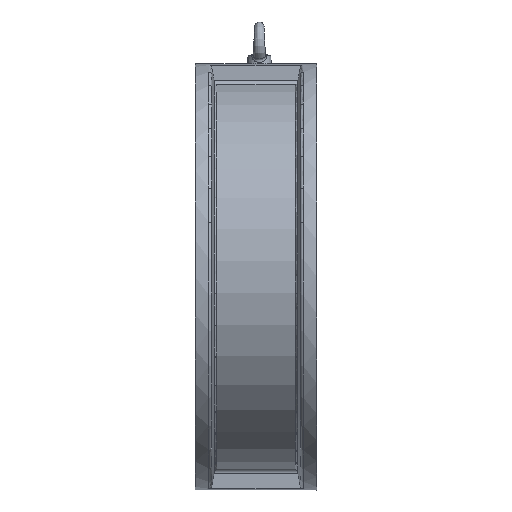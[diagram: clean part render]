
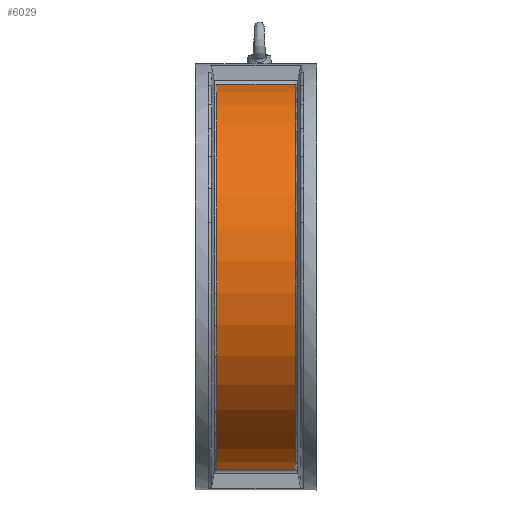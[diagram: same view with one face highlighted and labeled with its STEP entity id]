
A CAD part, left-side view. The second image highlights one B-rep face of the part: STEP entity #6029.
In plain terms, the highlighted cylindrical face has radius 202 mm (diameter 404 mm), a partial arc.
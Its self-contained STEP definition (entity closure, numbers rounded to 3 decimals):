
#195 = DIRECTION ( 'NONE',  ( 0., 0., 1. ) ) ;
#329 = EDGE_CURVE ( 'NONE', #6367, #3866, #4139, .T. ) ;
#393 = EDGE_CURVE ( 'NONE', #798, #6367, #6748, .T. ) ;
#431 = CIRCLE ( 'NONE', #6601, 202. ) ;
#498 = DIRECTION ( 'NONE',  ( 0., 1., 0. ) ) ;
#798 = VERTEX_POINT ( 'NONE', #3932 ) ;
#946 = EDGE_LOOP ( 'NONE', ( #4371, #7241, #7439, #6087 ) ) ;
#1053 = CYLINDRICAL_SURFACE ( 'NONE', #7165, 202. ) ;
#1596 = CARTESIAN_POINT ( 'NONE',  ( 2667.157, 1533.181, 200.008 ) ) ;
#1978 = AXIS2_PLACEMENT_3D ( 'NONE', #4160, #6792, #195 ) ;
#2202 = LINE ( 'NONE', #5126, #7819 ) ;
#2320 = DIRECTION ( 'NONE',  ( 0., 0., 1. ) ) ;
#2614 = EDGE_CURVE ( 'NONE', #3866, #6416, #2202, .T. ) ;
#3866 = VERTEX_POINT ( 'NONE', #4004 ) ;
#3932 = CARTESIAN_POINT ( 'NONE',  ( 2667.157, 1533.181, -200.008 ) ) ;
#4004 = CARTESIAN_POINT ( 'NONE',  ( 2667.157, 1451.215, 200.008 ) ) ;
#4139 = CIRCLE ( 'NONE', #1978, 202. ) ;
#4160 = CARTESIAN_POINT ( 'NONE',  ( 2695.457, 1451.215, 0. ) ) ;
#4371 = ORIENTED_EDGE ( 'NONE', *, *, #5066, .F. ) ;
#5066 = EDGE_CURVE ( 'NONE', #798, #6416, #431, .T. ) ;
#5126 = CARTESIAN_POINT ( 'NONE',  ( 2667.157, 1562.242, 200.008 ) ) ;
#6029 = ADVANCED_FACE ( 'NONE', ( #6990 ), #1053, .T. ) ;
#6087 = ORIENTED_EDGE ( 'NONE', *, *, #2614, .T. ) ;
#6240 = DIRECTION ( 'NONE',  ( 0., -1., 0. ) ) ;
#6367 = VERTEX_POINT ( 'NONE', #6898 ) ;
#6374 = CARTESIAN_POINT ( 'NONE',  ( 2695.457, 1562.242, 0. ) ) ;
#6416 = VERTEX_POINT ( 'NONE', #1596 ) ;
#6446 = VECTOR ( 'NONE', #6240, 1000. ) ;
#6601 = AXIS2_PLACEMENT_3D ( 'NONE', #8164, #8197, #7493 ) ;
#6748 = LINE ( 'NONE', #8124, #6446 ) ;
#6792 = DIRECTION ( 'NONE',  ( 0., 1., 0. ) ) ;
#6898 = CARTESIAN_POINT ( 'NONE',  ( 2667.157, 1451.215, -200.008 ) ) ;
#6990 = FACE_OUTER_BOUND ( 'NONE', #946, .T. ) ;
#7165 = AXIS2_PLACEMENT_3D ( 'NONE', #6374, #8340, #2320 ) ;
#7241 = ORIENTED_EDGE ( 'NONE', *, *, #393, .T. ) ;
#7439 = ORIENTED_EDGE ( 'NONE', *, *, #329, .T. ) ;
#7493 = DIRECTION ( 'NONE',  ( 0., 0., 1. ) ) ;
#7819 = VECTOR ( 'NONE', #498, 1000. ) ;
#8124 = CARTESIAN_POINT ( 'NONE',  ( 2667.157, 1562.242, -200.008 ) ) ;
#8164 = CARTESIAN_POINT ( 'NONE',  ( 2695.457, 1533.181, 0. ) ) ;
#8197 = DIRECTION ( 'NONE',  ( 0., 1., 0. ) ) ;
#8340 = DIRECTION ( 'NONE',  ( 0., 1., 0. ) ) ;
